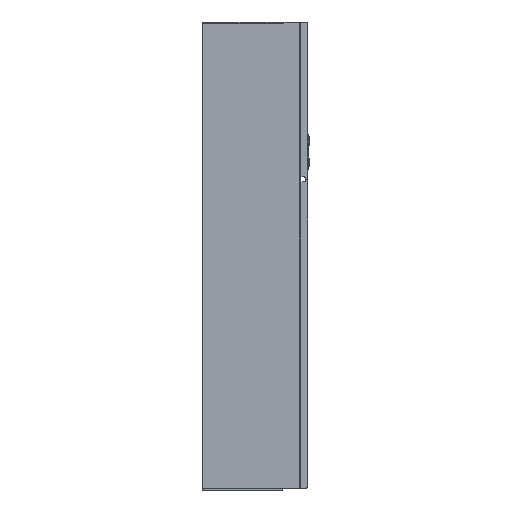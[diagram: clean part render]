
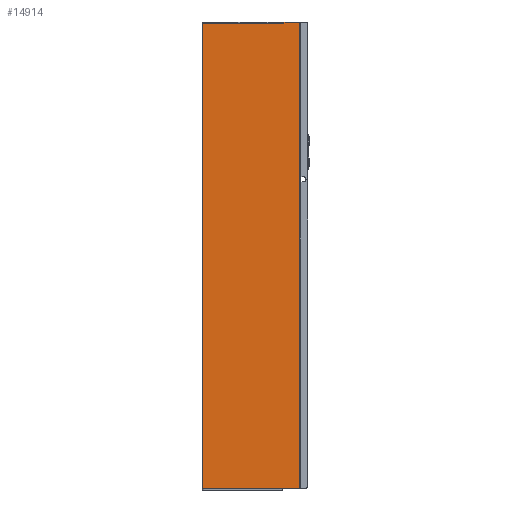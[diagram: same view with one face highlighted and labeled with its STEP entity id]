
A CAD part, left-side view. The second image highlights one B-rep face of the part: STEP entity #14914.
In plain terms, the highlighted planar face has unit normal (-1, 0, 0).
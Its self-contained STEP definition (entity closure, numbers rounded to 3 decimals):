
#116 = EDGE_CURVE ( 'NONE', #7480, #9804, #4883, .T. ) ;
#273 = CIRCLE ( 'NONE', #9181, 0.2 ) ;
#733 = CARTESIAN_POINT ( 'NONE',  ( 0., 0., 270. ) ) ;
#820 = VERTEX_POINT ( 'NONE', #8132 ) ;
#937 = ORIENTED_EDGE ( 'NONE', *, *, #15789, .T. ) ;
#961 = EDGE_CURVE ( 'NONE', #7480, #5406, #7359, .T. ) ;
#1082 = CIRCLE ( 'NONE', #17121, 0.2 ) ;
#1584 = VECTOR ( 'NONE', #6106, 1000. ) ;
#1597 = EDGE_LOOP ( 'NONE', ( #6362, #9156, #10111, #9230, #11408, #3022, #8662, #937, #9676, #6431, #9563 ) ) ;
#2447 = VECTOR ( 'NONE', #6014, 1000. ) ;
#2538 = VECTOR ( 'NONE', #8054, 1000. ) ;
#3022 = ORIENTED_EDGE ( 'NONE', *, *, #961, .F. ) ;
#3437 = EDGE_CURVE ( 'NONE', #12247, #7395, #14221, .T. ) ;
#3600 = CARTESIAN_POINT ( 'NONE',  ( 0., 18.5, 268.7 ) ) ;
#3645 = CARTESIAN_POINT ( 'NONE',  ( 0., 20.5, -269. ) ) ;
#3740 = CARTESIAN_POINT ( 'NONE',  ( 0., 0., 270. ) ) ;
#3769 = CARTESIAN_POINT ( 'NONE',  ( 0., 113., 270. ) ) ;
#3820 = AXIS2_PLACEMENT_3D ( 'NONE', #3740, #5094, #14427 ) ;
#3948 = CARTESIAN_POINT ( 'NONE',  ( 0., 20.5, 268.5 ) ) ;
#4225 = VECTOR ( 'NONE', #14604, 1000. ) ;
#4359 = CARTESIAN_POINT ( 'NONE',  ( 0., 113., -269. ) ) ;
#4728 = DIRECTION ( 'NONE',  ( 0., 0., -1. ) ) ;
#4883 = LINE ( 'NONE', #3769, #11126 ) ;
#5094 = DIRECTION ( 'NONE',  ( -1., 0., 0. ) ) ;
#5292 = DIRECTION ( 'NONE',  ( 0., 1., 0. ) ) ;
#5361 = CARTESIAN_POINT ( 'NONE',  ( 0., 0., 270. ) ) ;
#5406 = VERTEX_POINT ( 'NONE', #16113 ) ;
#5454 = DIRECTION ( 'NONE',  ( -1., 0., 0. ) ) ;
#5472 = CARTESIAN_POINT ( 'NONE',  ( 0., 20.5, 268.8 ) ) ;
#5505 = EDGE_CURVE ( 'NONE', #820, #13950, #9591, .T. ) ;
#5620 = CARTESIAN_POINT ( 'NONE',  ( 0., 18.7, 268.5 ) ) ;
#6014 = DIRECTION ( 'NONE',  ( 0., -1., 0. ) ) ;
#6106 = DIRECTION ( 'NONE',  ( 0., 0., 1. ) ) ;
#6357 = CARTESIAN_POINT ( 'NONE',  ( 0., 20.5, 268.7 ) ) ;
#6362 = ORIENTED_EDGE ( 'NONE', *, *, #9930, .T. ) ;
#6431 = ORIENTED_EDGE ( 'NONE', *, *, #5505, .F. ) ;
#6720 = CARTESIAN_POINT ( 'NONE',  ( 0., 18.3, 269.8 ) ) ;
#6769 = VECTOR ( 'NONE', #8633, 1000. ) ;
#7268 = DIRECTION ( 'NONE',  ( -1., 0., 0. ) ) ;
#7359 = LINE ( 'NONE', #15591, #4225 ) ;
#7395 = VERTEX_POINT ( 'NONE', #15870 ) ;
#7480 = VERTEX_POINT ( 'NONE', #8059 ) ;
#7722 = EDGE_CURVE ( 'NONE', #9466, #13950, #8722, .T. ) ;
#8054 = DIRECTION ( 'NONE',  ( 0., 0., -1. ) ) ;
#8059 = CARTESIAN_POINT ( 'NONE',  ( 0., 113., 268.8 ) ) ;
#8068 = DIRECTION ( 'NONE',  ( 0., 0., -1. ) ) ;
#8132 = CARTESIAN_POINT ( 'NONE',  ( 0., 18.3, 270. ) ) ;
#8633 = DIRECTION ( 'NONE',  ( 0., 0., -1. ) ) ;
#8662 = ORIENTED_EDGE ( 'NONE', *, *, #116, .T. ) ;
#8722 = LINE ( 'NONE', #733, #1584 ) ;
#9156 = ORIENTED_EDGE ( 'NONE', *, *, #16098, .F. ) ;
#9181 = AXIS2_PLACEMENT_3D ( 'NONE', #13455, #5454, #14799 ) ;
#9230 = ORIENTED_EDGE ( 'NONE', *, *, #9637, .F. ) ;
#9256 = LINE ( 'NONE', #5472, #2538 ) ;
#9466 = VERTEX_POINT ( 'NONE', #12980 ) ;
#9563 = ORIENTED_EDGE ( 'NONE', *, *, #10762, .F. ) ;
#9591 = LINE ( 'NONE', #14003, #2447 ) ;
#9637 = EDGE_CURVE ( 'NONE', #13820, #7395, #273, .T. ) ;
#9676 = ORIENTED_EDGE ( 'NONE', *, *, #7722, .T. ) ;
#9804 = VERTEX_POINT ( 'NONE', #4359 ) ;
#9855 = AXIS2_PLACEMENT_3D ( 'NONE', #15254, #7268, #16620 ) ;
#9930 = EDGE_CURVE ( 'NONE', #10138, #13772, #10299, .T. ) ;
#10111 = ORIENTED_EDGE ( 'NONE', *, *, #3437, .T. ) ;
#10138 = VERTEX_POINT ( 'NONE', #13202 ) ;
#10299 = LINE ( 'NONE', #11223, #6769 ) ;
#10658 = VECTOR ( 'NONE', #5292, 1000. ) ;
#10762 = EDGE_CURVE ( 'NONE', #10138, #820, #1082, .T. ) ;
#10788 = CIRCLE ( 'NONE', #9855, 0.2 ) ;
#11126 = VECTOR ( 'NONE', #4728, 1000. ) ;
#11223 = CARTESIAN_POINT ( 'NONE',  ( 0., 18.5, 270. ) ) ;
#11408 = ORIENTED_EDGE ( 'NONE', *, *, #13988, .F. ) ;
#11729 = PLANE ( 'NONE',  #3820 ) ;
#12247 = VERTEX_POINT ( 'NONE', #5620 ) ;
#12776 = FACE_OUTER_BOUND ( 'NONE', #1597, .T. ) ;
#12980 = CARTESIAN_POINT ( 'NONE',  ( 0., 0., -269. ) ) ;
#13202 = CARTESIAN_POINT ( 'NONE',  ( 0., 18.5, 269.8 ) ) ;
#13311 = VECTOR ( 'NONE', #15682, 1000. ) ;
#13455 = CARTESIAN_POINT ( 'NONE',  ( 0., 20.3, 268.7 ) ) ;
#13772 = VERTEX_POINT ( 'NONE', #3600 ) ;
#13820 = VERTEX_POINT ( 'NONE', #6357 ) ;
#13950 = VERTEX_POINT ( 'NONE', #5361 ) ;
#13988 = EDGE_CURVE ( 'NONE', #5406, #13820, #9256, .T. ) ;
#14003 = CARTESIAN_POINT ( 'NONE',  ( 0., 0., 270. ) ) ;
#14221 = LINE ( 'NONE', #3948, #10658 ) ;
#14427 = DIRECTION ( 'NONE',  ( 0., 0., -1. ) ) ;
#14604 = DIRECTION ( 'NONE',  ( 0., -1., 0. ) ) ;
#14799 = DIRECTION ( 'NONE',  ( 0., 0., -1. ) ) ;
#14914 = ADVANCED_FACE ( 'NONE', ( #12776 ), #11729, .T. ) ;
#15254 = CARTESIAN_POINT ( 'NONE',  ( 0., 18.7, 268.7 ) ) ;
#15591 = CARTESIAN_POINT ( 'NONE',  ( 0., 0., 268.8 ) ) ;
#15682 = DIRECTION ( 'NONE',  ( 0., -1., 0. ) ) ;
#15789 = EDGE_CURVE ( 'NONE', #9804, #9466, #16883, .T. ) ;
#15870 = CARTESIAN_POINT ( 'NONE',  ( 0., 20.3, 268.5 ) ) ;
#16062 = DIRECTION ( 'NONE',  ( 1., 0., 0. ) ) ;
#16098 = EDGE_CURVE ( 'NONE', #12247, #13772, #10788, .T. ) ;
#16113 = CARTESIAN_POINT ( 'NONE',  ( 0., 20.5, 268.8 ) ) ;
#16620 = DIRECTION ( 'NONE',  ( 0., 0., -1. ) ) ;
#16883 = LINE ( 'NONE', #3645, #13311 ) ;
#17121 = AXIS2_PLACEMENT_3D ( 'NONE', #6720, #16062, #8068 ) ;
